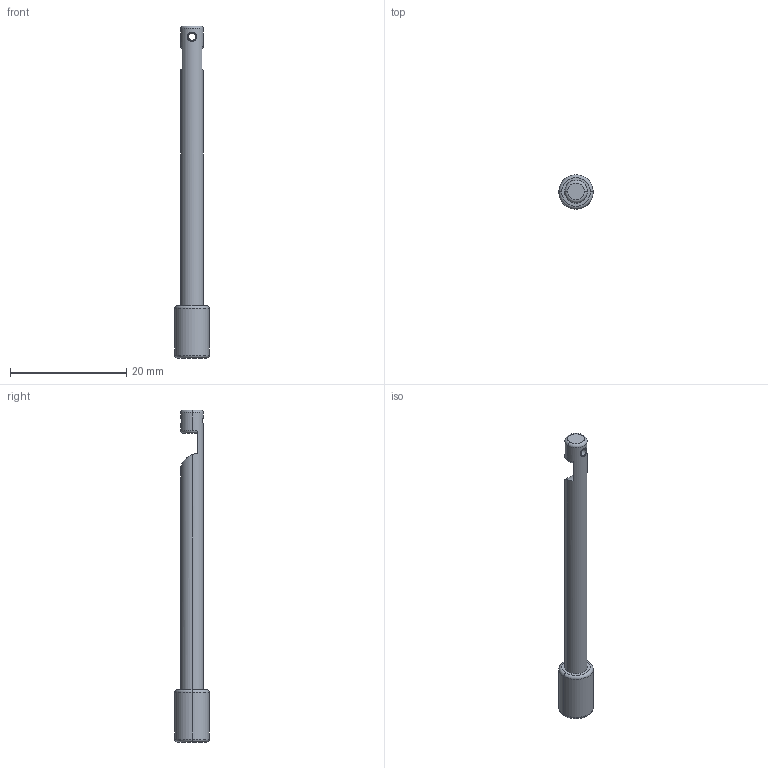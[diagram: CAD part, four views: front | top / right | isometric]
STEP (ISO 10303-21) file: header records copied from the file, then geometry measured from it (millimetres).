
FILE_DESCRIPTION((''),'2;1');
FILE_NAME('FLIGHT_SWITCH_VER01','2020-03-13T',('g0715'),(''),'PRO/ENGINEER BY PARAMETRIC TECHNOLOGY CORPORATION, 2014090','PRO/ENGINEER BY PARAMETRIC TECHNOLOGY CORPORATION, 2014090','');
FILE_SCHEMA(('CONFIG_CONTROL_DESIGN'));
Length unit declared in the file: millimetre
Products named in the file (1): FLIGHT_SWITCH_VER01
Bounding box: 5.9 x 5.9 x 57 mm (x, y, z)
Volume: 773.3 mm3; surface area: 825.3 mm2
Topology: 1 solids, 2 shells, 22 faces, 53 edges, 34 vertices
Faces by surface type: cylinder 10, torus 7, plane 5
Entity records: 812 total; most frequent: CARTESIAN_POINT 257, DIRECTION 108, ORIENTED_EDGE 100, EDGE_CURVE 53, AXIS2_PLACEMENT_3D 47, VERTEX_POINT 34, EDGE_LOOP 25, CIRCLE 24
